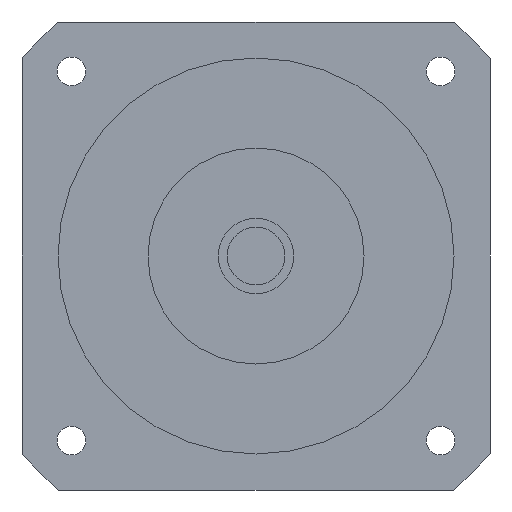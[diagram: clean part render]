
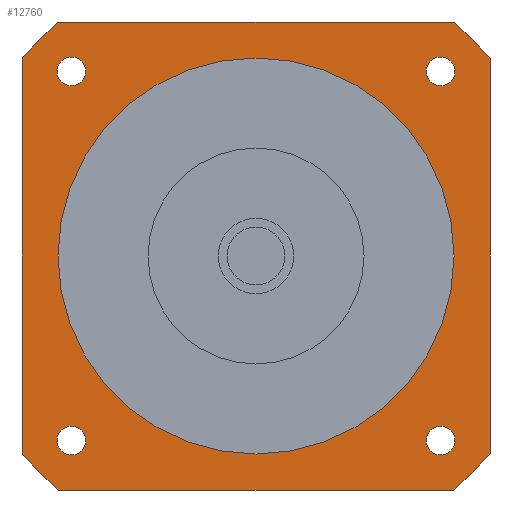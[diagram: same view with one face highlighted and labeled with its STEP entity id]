
A CAD part, left-side view. The second image highlights one B-rep face of the part: STEP entity #12760.
In plain terms, the highlighted planar face has unit normal (-1, 0, 0) as drawn and (0, 0, -1) by its records, which use the part's own axes.
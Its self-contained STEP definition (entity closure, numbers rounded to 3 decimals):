
#9280=CARTESIAN_POINT('',(65.,-54.772,-51.4));
#9290=VERTEX_POINT('',#9280);
#9340=CARTESIAN_POINT('',(0.,0.,
-51.4));
#9350=DIRECTION('',(0.,0.,-1.));
#9360=DIRECTION('',(1.,0.,0.));
#9370=AXIS2_PLACEMENT_3D('',#9340,#9350,#9360);
#9380=CIRCLE('',#9370,85.);
#9390=CARTESIAN_POINT('',(54.772,-65.,-51.4));
#9400=VERTEX_POINT('',#9390);
#9410=EDGE_CURVE('',#9290,#9400,#9380,.T.);
#11190=CARTESIAN_POINT('',(-51.265,-47.265,-51.4));
#11200=VERTEX_POINT('',#11190);
#11230=CARTESIAN_POINT('',(-51.265,-51.265,-51.4));
#11240=DIRECTION('',(0.,0.,-1.));
#11250=DIRECTION('',(0.,-1.,0.));
#11260=AXIS2_PLACEMENT_3D('',#11230,#11240,#11250);
#11270=CIRCLE('',#11260,4.);
#11280=CARTESIAN_POINT('',(-51.265,-55.265,-51.4));
#11290=VERTEX_POINT('',#11280);
#11300=EDGE_CURVE('',#11290,#11200,#11270,.T.);
#11420=CARTESIAN_POINT('',(65.,65.,-51.4));
#11430=DIRECTION('',(0.,0.,-1.));
#11440=DIRECTION('',(1.,0.,0.));
#11450=AXIS2_PLACEMENT_3D('',#11420,#11430,#11440);
#11460=PLANE('',#11450);
#11470=ORIENTED_EDGE('',*,*,#11300,.F.);
#11480=EDGE_CURVE('',#11200,#11290,#11270,.T.);
#11490=ORIENTED_EDGE('',*,*,#11480,.F.);
#11500=EDGE_LOOP('',(#11490,#11470));
#11510=FACE_BOUND('',#11500,.T.);
#11520=CARTESIAN_POINT('',(-51.265,51.265,-51.4));
#11530=DIRECTION('',(0.,0.,-1.));
#11540=DIRECTION('',(-1.,0.,0.));
#11550=AXIS2_PLACEMENT_3D('',#11520,#11530,#11540);
#11560=CIRCLE('',#11550,4.);
#11570=CARTESIAN_POINT('',(-55.265,51.265,-51.4));
#11580=VERTEX_POINT('',#11570);
#11590=CARTESIAN_POINT('',(-47.265,51.265,-51.4));
#11600=VERTEX_POINT('',#11590);
#11610=EDGE_CURVE('',#11580,#11600,#11560,.T.);
#11620=ORIENTED_EDGE('',*,*,#11610,.F.);
#11630=EDGE_CURVE('',#11600,#11580,#11560,.T.);
#11640=ORIENTED_EDGE('',*,*,#11630,.F.);
#11650=EDGE_LOOP('',(#11640,#11620));
#11660=FACE_BOUND('',#11650,.T.);
#11670=CARTESIAN_POINT('',(51.265,51.265,-51.4));
#11680=DIRECTION('',(0.,0.,-1.));
#11690=DIRECTION('',(0.,1.,0.));
#11700=AXIS2_PLACEMENT_3D('',#11670,#11680,#11690);
#11710=CIRCLE('',#11700,4.);
#11720=CARTESIAN_POINT('',(51.265,55.265,-51.4));
#11730=VERTEX_POINT('',#11720);
#11740=CARTESIAN_POINT('',(51.265,47.265,-51.4));
#11750=VERTEX_POINT('',#11740);
#11760=EDGE_CURVE('',#11730,#11750,#11710,.T.);
#11770=ORIENTED_EDGE('',*,*,#11760,.F.);
#11780=EDGE_CURVE('',#11750,#11730,#11710,.T.);
#11790=ORIENTED_EDGE('',*,*,#11780,.F.);
#11800=EDGE_LOOP('',(#11790,#11770));
#11810=FACE_BOUND('',#11800,.T.);
#11820=CARTESIAN_POINT('',(0.,0.,
-51.4));
#11830=DIRECTION('',(0.,0.,1.));
#11840=DIRECTION('',(0.,1.,0.));
#11850=AXIS2_PLACEMENT_3D('',#11820,#11830,#11840);
#11860=CIRCLE('',#11850,55.);
#11870=CARTESIAN_POINT('',(-55.,0.,-51.4));
#11880=VERTEX_POINT('',#11870);
#11890=CARTESIAN_POINT('',(55.,0.,-51.4));
#11900=VERTEX_POINT('',#11890);
#11910=EDGE_CURVE('',#11880,#11900,#11860,.T.);
#11920=ORIENTED_EDGE('',*,*,#11910,.T.);
#11930=CARTESIAN_POINT('',(0.,55.,-51.4));
#11940=VERTEX_POINT('',#11930);
#11950=EDGE_CURVE('',#11940,#11880,#11860,.T.);
#11960=ORIENTED_EDGE('',*,*,#11950,.T.);
#11970=EDGE_CURVE('',#11900,#11940,#11860,.T.);
#11980=ORIENTED_EDGE('',*,*,#11970,.T.);
#11990=EDGE_LOOP('',(#11980,#11960,#11920));
#12000=FACE_BOUND('',#11990,.T.);
#12010=CARTESIAN_POINT('',(-65.,65.,-51.4));
#12020=DIRECTION('',(1.,0.,0.));
#12030=VECTOR('',#12020,1000.);
#12040=LINE('',#12010,#12030);
#12050=CARTESIAN_POINT('',(-54.772,65.,-51.4));
#12060=VERTEX_POINT('',#12050);
#12070=CARTESIAN_POINT('',(54.772,65.,-51.4));
#12080=VERTEX_POINT('',#12070);
#12090=EDGE_CURVE('',#12060,#12080,#12040,.T.);
#12100=ORIENTED_EDGE('',*,*,#12090,.T.);
#12110=CARTESIAN_POINT('',(0.,0.,
-51.4));
#12120=DIRECTION('',(0.,0.,-1.));
#12130=DIRECTION('',(1.,0.,0.));
#12140=AXIS2_PLACEMENT_3D('',#12110,#12120,#12130);
#12150=CIRCLE('',#12140,85.);
#12160=CARTESIAN_POINT('',(-65.,54.772,-51.4));
#12170=VERTEX_POINT('',#12160);
#12180=EDGE_CURVE('',#12170,#12060,#12150,.T.);
#12190=ORIENTED_EDGE('',*,*,#12180,.T.);
#12200=CARTESIAN_POINT('',(-65.,-65.,-51.4));
#12210=DIRECTION('',(0.,1.,0.));
#12220=VECTOR('',#12210,1000.);
#12230=LINE('',#12200,#12220);
#12240=CARTESIAN_POINT('',(-65.,-54.772,-51.4));
#12250=VERTEX_POINT('',#12240);
#12260=EDGE_CURVE('',#12250,#12170,#12230,.T.);
#12270=ORIENTED_EDGE('',*,*,#12260,.T.);
#12280=CARTESIAN_POINT('',(0.,0.,
-51.4));
#12290=DIRECTION('',(0.,0.,-1.));
#12300=DIRECTION('',(1.,0.,0.));
#12310=AXIS2_PLACEMENT_3D('',#12280,#12290,#12300);
#12320=CIRCLE('',#12310,85.);
#12330=CARTESIAN_POINT('',(-54.772,-65.,-51.4));
#12340=VERTEX_POINT('',#12330);
#12350=EDGE_CURVE('',#12340,#12250,#12320,.T.);
#12360=ORIENTED_EDGE('',*,*,#12350,.T.);
#12370=CARTESIAN_POINT('',(65.,-65.,-51.4));
#12380=DIRECTION('',(-1.,0.,0.));
#12390=VECTOR('',#12380,1000.);
#12400=LINE('',#12370,#12390);
#12410=EDGE_CURVE('',#9400,#12340,#12400,.T.);
#12420=ORIENTED_EDGE('',*,*,#12410,.T.);
#12430=ORIENTED_EDGE('',*,*,#9410,.T.);
#12440=CARTESIAN_POINT('',(65.,65.,-51.4));
#12450=DIRECTION('',(0.,-1.,0.));
#12460=VECTOR('',#12450,1000.);
#12470=LINE('',#12440,#12460);
#12480=CARTESIAN_POINT('',(65.,54.772,-51.4));
#12490=VERTEX_POINT('',#12480);
#12500=EDGE_CURVE('',#12490,#9290,#12470,.T.);
#12510=ORIENTED_EDGE('',*,*,#12500,.T.);
#12520=CARTESIAN_POINT('',(0.,0.,
-51.4));
#12530=DIRECTION('',(0.,0.,-1.));
#12540=DIRECTION('',(1.,0.,0.));
#12550=AXIS2_PLACEMENT_3D('',#12520,#12530,#12540);
#12560=CIRCLE('',#12550,85.);
#12570=EDGE_CURVE('',#12080,#12490,#12560,.T.);
#12580=ORIENTED_EDGE('',*,*,#12570,.T.);
#12590=EDGE_LOOP('',(#12580,#12510,#12430,#12420,#12360,#12270,#12190,
#12100));
#12600=FACE_OUTER_BOUND('',#12590,.T.);
#12610=CARTESIAN_POINT('',(51.265,-51.265,-51.4));
#12620=DIRECTION('',(0.,0.,-1.));
#12630=DIRECTION('',(1.,0.,0.));
#12640=AXIS2_PLACEMENT_3D('',#12610,#12620,#12630);
#12650=CIRCLE('',#12640,4.);
#12660=CARTESIAN_POINT('',(55.265,-51.265,-51.4));
#12670=VERTEX_POINT('',#12660);
#12680=CARTESIAN_POINT('',(47.265,-51.265,-51.4));
#12690=VERTEX_POINT('',#12680);
#12700=EDGE_CURVE('',#12670,#12690,#12650,.T.);
#12710=ORIENTED_EDGE('',*,*,#12700,.F.);
#12720=EDGE_CURVE('',#12690,#12670,#12650,.T.);
#12730=ORIENTED_EDGE('',*,*,#12720,.F.);
#12740=EDGE_LOOP('',(#12730,#12710));
#12750=FACE_BOUND('',#12740,.T.);
#12760=ADVANCED_FACE('',(#11510,#11660,#11810,#12000,#12600,#12750),
#11460,.T.);
